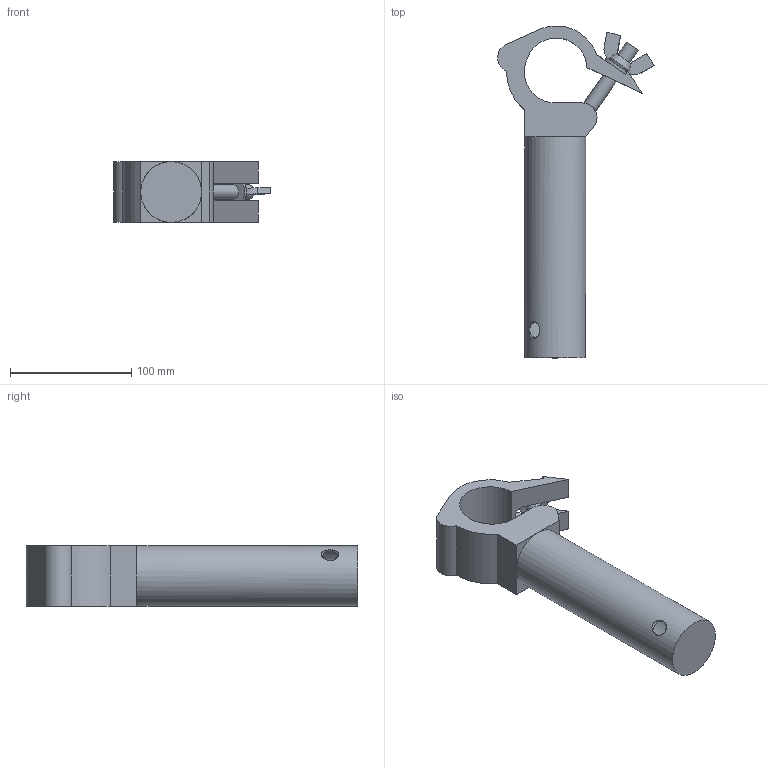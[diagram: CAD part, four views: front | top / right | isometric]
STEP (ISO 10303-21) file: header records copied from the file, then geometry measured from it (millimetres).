
FILE_DESCRIPTION(/* description */ (''),/* implementation_level */ '2;1');
FILE_NAME(/* name */ 'K:\Techniek\CAD Tekeningen\Inventor transport\Cas\Cad Blokken\Catalogus\CS1-DCxx\CS1-DC21.stp',/* time_stamp */ '2021-06-22T09:47:05+02:00',/* author */ ('Cas'),/* organization */ (''),/* preprocessor_version */ 'ST-DEVELOPER v18',/* originating_system */ 'Autodesk Inventor 2020',/* authorisation */ '');
FILE_SCHEMA (('AUTOMOTIVE_DESIGN { 1 0 10303 214 3 1 1 }'));
Length unit declared in the file: millimetre
Products named in the file (1): CS1-DC21
Bounding box: 129.13 x 273.33 x 50 mm (x, y, z)
Volume: 544028.7 mm3; surface area: 66686 mm2
Topology: 1 solids, 1 shells, 58 faces, 159 edges, 102 vertices
Faces by surface type: plane 37, cylinder 15, cone 6
Full cylindrical faces by diameter (mm): 12 x2, 50 x1
Entity records: 2095 total; most frequent: CARTESIAN_POINT 452, ORIENTED_EDGE 326, DIRECTION 307, EDGE_CURVE 163, AXIS2_PLACEMENT_3D 103, VERTEX_POINT 102, LINE 101, VECTOR 101
